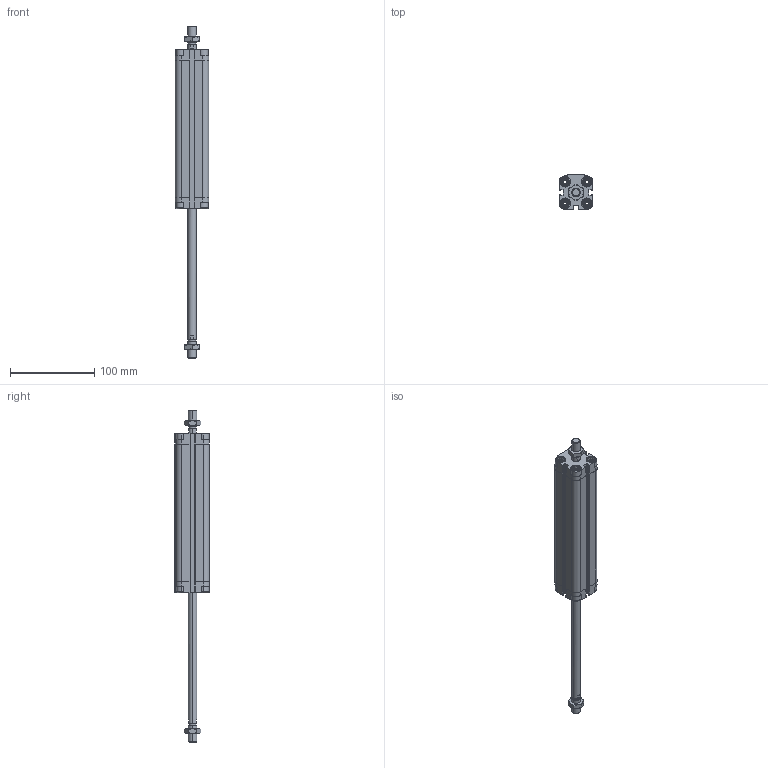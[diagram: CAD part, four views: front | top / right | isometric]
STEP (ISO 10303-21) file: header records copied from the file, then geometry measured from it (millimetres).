
FILE_DESCRIPTION (( 'STEP AP203' ), '1' );
FILE_NAME ('CDVU25-150M-P.STEP', '2020-07-21T15:13:16', ( '' ), ( '' ), 'SwSTEP 2.0', 'SolidWorks 2019', '' );
FILE_SCHEMA (( 'CONFIG_CONTROL_DESIGN' ));
Length unit declared in the file: millimetre
Products named in the file (1): CDVU25-150M-P
Bounding box: 40 x 41.5 x 394.5 mm (x, y, z)
Volume: 201909.5 mm3; surface area: 88062.1 mm2
Topology: 4 solids, 4 shells, 632 faces, 1650 edges, 1062 vertices
Faces by surface type: plane 372, cylinder 180, cone 64, torus 16
Entity records: 20069 total; most frequent: CARTESIAN_POINT 4485, ORIENTED_EDGE 3292, DIRECTION 3152, EDGE_CURVE 1646, AXIS2_PLACEMENT_3D 1089, VERTEX_POINT 1062, LINE 974, VECTOR 974
